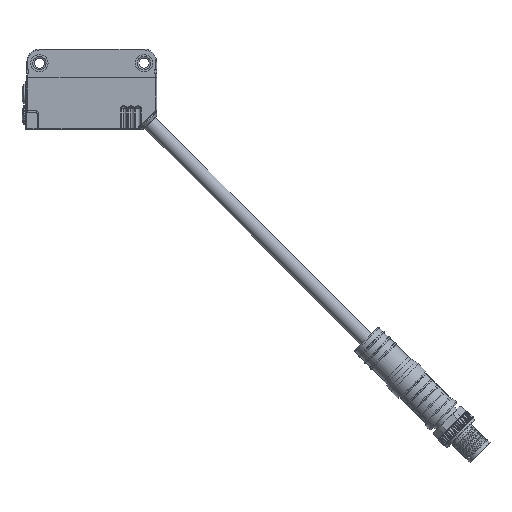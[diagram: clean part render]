
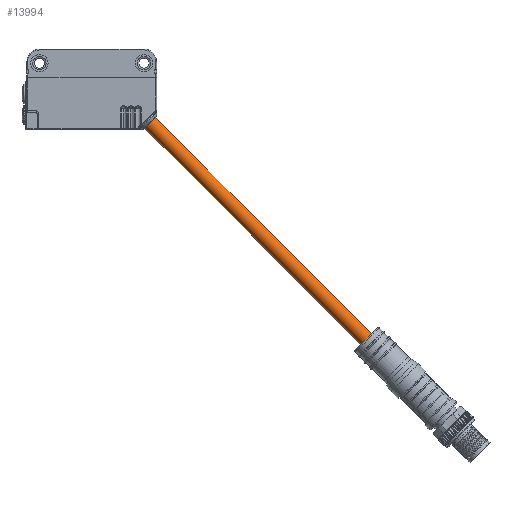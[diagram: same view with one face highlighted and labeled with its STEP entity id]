
A CAD part, left-side view. The second image highlights one B-rep face of the part: STEP entity #13994.
In plain terms, the highlighted cylindrical face has radius 1.85 mm (diameter 3.7 mm), a full revolution.
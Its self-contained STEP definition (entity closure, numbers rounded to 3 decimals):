
#10474=CYLINDRICAL_SURFACE('',#53835,1.85);
#10879=FACE_BOUND('',#19948,.T.);
#10880=FACE_BOUND('',#19949,.T.);
#11862=CIRCLE('',#53127,1.85);
#12129=CIRCLE('',#53834,1.85);
#13994=ADVANCED_FACE('',(#10879,#10880),#10474,.T.);
#19948=EDGE_LOOP('',(#27678));
#19949=EDGE_LOOP('',(#27679));
#27678=ORIENTED_EDGE('',*,*,#41679,.T.);
#27679=ORIENTED_EDGE('',*,*,#40521,.F.);
#35659=VERTEX_POINT('',#71180);
#36371=VERTEX_POINT('',#75801);
#40521=EDGE_CURVE('',#35659,#35659,#11862,.T.);
#41679=EDGE_CURVE('',#36371,#36371,#12129,.T.);
#53127=AXIS2_PLACEMENT_3D('',#71179,#59408,#59409);
#53834=AXIS2_PLACEMENT_3D('',#75800,#61219,#61220);
#53835=AXIS2_PLACEMENT_3D('',#75802,#61221,#61222);
#59408=DIRECTION('',(0.,0.,1.));
#59409=DIRECTION('',(1.,0.,0.));
#61219=DIRECTION('',(0.,0.,1.));
#61220=DIRECTION('',(1.,0.,0.));
#61221=DIRECTION('',(0.,0.,-1.));
#61222=DIRECTION('',(-1.,0.,0.));
#71179=CARTESIAN_POINT('',(0.,0.,43.5));
#71180=CARTESIAN_POINT('',(1.85,0.,43.5));
#75800=CARTESIAN_POINT('',(0.,0.,-34.5));
#75801=CARTESIAN_POINT('',(1.85,0.,-34.5));
#75802=CARTESIAN_POINT('',(0.,0.,46.1));
